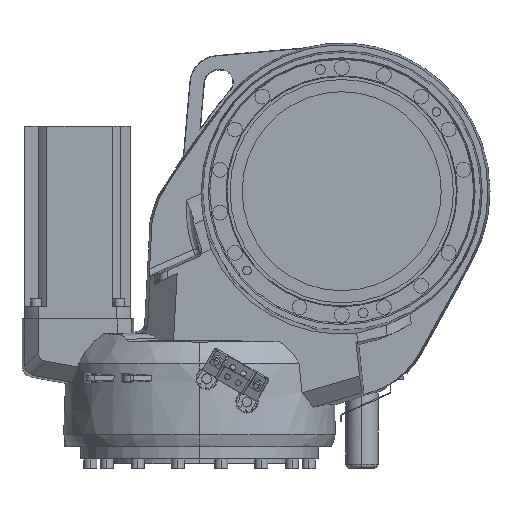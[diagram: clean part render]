
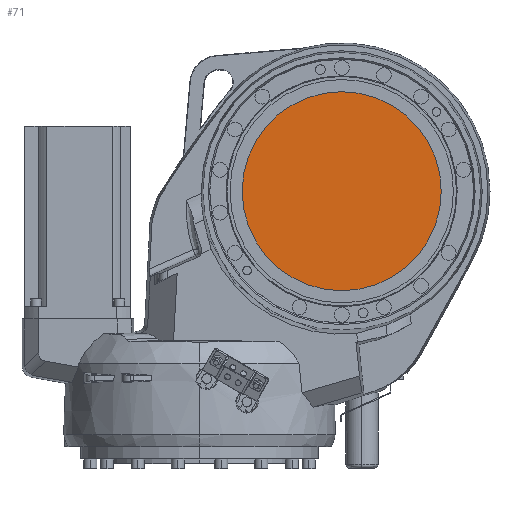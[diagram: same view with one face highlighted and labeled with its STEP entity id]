
A CAD part, front view. The second image highlights one B-rep face of the part: STEP entity #71.
In plain terms, the highlighted planar face has unit normal (0, -1, 0).
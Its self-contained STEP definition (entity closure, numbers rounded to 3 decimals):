
#71 = ADVANCED_FACE ( 'NONE', ( #48233 ), #23328, .F. ) ;
#8683 = DIRECTION ( 'NONE',  ( 0., 0., 1. ) ) ;
#8685 = DIRECTION ( 'NONE',  ( 0., 1., 0. ) ) ;
#8698 = CARTESIAN_POINT ( 'NONE',  ( 175., -122.5, 495. ) ) ;
#10219 = DIRECTION ( 'NONE',  ( 0., 0., 1. ) ) ;
#10220 = DIRECTION ( 'NONE',  ( 0., 1., 0. ) ) ;
#10222 = CARTESIAN_POINT ( 'NONE',  ( 175., -122.5, 495. ) ) ;
#11595 = AXIS2_PLACEMENT_3D ( 'NONE', #10222, #10220, #10219 ) ;
#13015 = AXIS2_PLACEMENT_3D ( 'NONE', #8698, #8685, #8683 ) ;
#20276 = CIRCLE ( 'NONE', #11595, 122.5 ) ;
#20794 = CIRCLE ( 'NONE', #13015, 122.5 ) ;
#23312 = DIRECTION ( 'NONE',  ( 0., 0., 1. ) ) ;
#23313 = DIRECTION ( 'NONE',  ( 0., 1., 0. ) ) ;
#23328 = PLANE ( 'NONE',  #33016 ) ;
#23339 = CARTESIAN_POINT ( 'NONE',  ( 59.86, -122.5, 500.027 ) ) ;
#29732 = CARTESIAN_POINT ( 'NONE',  ( 175., -122.5, 617.5 ) ) ;
#29946 = CARTESIAN_POINT ( 'NONE',  ( 175., -122.5, 372.5 ) ) ;
#33016 = AXIS2_PLACEMENT_3D ( 'NONE', #23339, #23313, #23312 ) ;
#33841 = EDGE_CURVE ( 'NONE', #36412, #36568, #20276, .T. ) ;
#34990 = EDGE_CURVE ( 'NONE', #36568, #36412, #20794, .T. ) ;
#36412 = VERTEX_POINT ( 'NONE', #29946 ) ;
#36568 = VERTEX_POINT ( 'NONE', #29732 ) ;
#39990 = EDGE_LOOP ( 'NONE', ( #42815, #42786 ) ) ;
#42786 = ORIENTED_EDGE ( 'NONE', *, *, #33841, .F. ) ;
#42815 = ORIENTED_EDGE ( 'NONE', *, *, #34990, .F. ) ;
#48233 = FACE_OUTER_BOUND ( 'NONE', #39990, .T. ) ;
